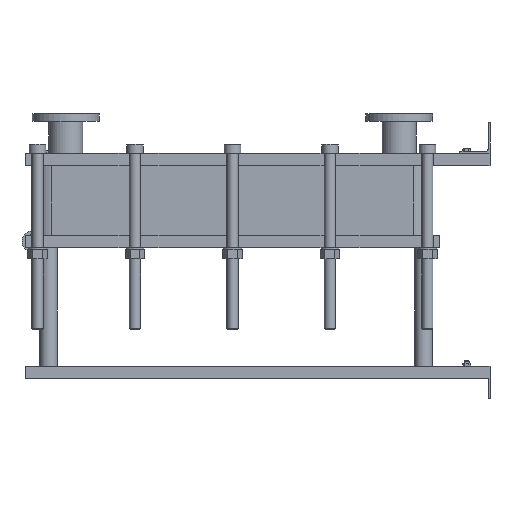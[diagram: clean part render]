
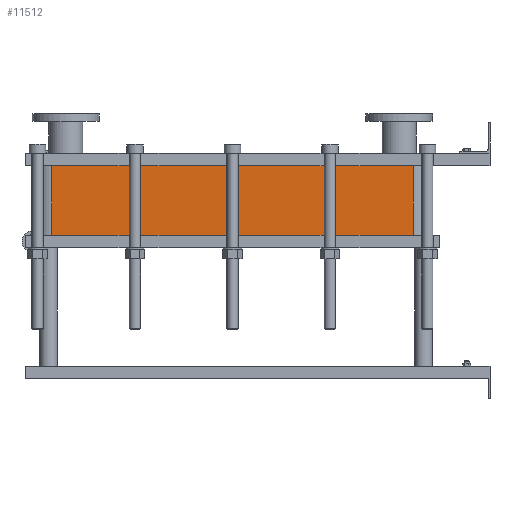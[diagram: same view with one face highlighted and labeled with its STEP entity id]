
A CAD part, left-side view. The second image highlights one B-rep face of the part: STEP entity #11512.
In plain terms, the highlighted planar face has unit normal (-1, 0, 0).
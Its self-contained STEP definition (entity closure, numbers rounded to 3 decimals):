
#1129=LINE('',#23232,#2102);
#1130=LINE('',#23236,#2103);
#1131=LINE('',#23238,#2104);
#1132=LINE('',#23239,#2105);
#2102=VECTOR('',#15887,10.);
#2103=VECTOR('',#15892,10.);
#2104=VECTOR('',#15893,10.);
#2105=VECTOR('',#15894,10.);
#3267=FACE_OUTER_BOUND('',#4093,.T.);
#4093=EDGE_LOOP('',(#10103,#10104,#10105,#10106));
#5642=VERTEX_POINT('',#23229);
#5643=VERTEX_POINT('',#23231);
#5644=VERTEX_POINT('',#23235);
#5645=VERTEX_POINT('',#23237);
#7159=EDGE_CURVE('',#5643,#5642,#1129,.T.);
#7161=EDGE_CURVE('',#5642,#5644,#1130,.T.);
#7162=EDGE_CURVE('',#5645,#5644,#1131,.T.);
#7163=EDGE_CURVE('',#5645,#5643,#1132,.T.);
#10103=ORIENTED_EDGE('',*,*,#7161,.T.);
#10104=ORIENTED_EDGE('',*,*,#7162,.F.);
#10105=ORIENTED_EDGE('',*,*,#7163,.T.);
#10106=ORIENTED_EDGE('',*,*,#7159,.T.);
#10857=PLANE('',#12751);
#11512=ADVANCED_FACE('',(#3267),#10857,.T.);
#12751=AXIS2_PLACEMENT_3D('',#23234,#15890,#15891);
#15887=DIRECTION('',(0.,0.,-1.));
#15890=DIRECTION('center_axis',(-1.,0.,0.));
#15891=DIRECTION('ref_axis',(0.,1.,0.));
#15892=DIRECTION('',(0.,-1.,0.));
#15893=DIRECTION('',(0.,0.,-1.));
#15894=DIRECTION('',(0.,1.,0.));
#23229=CARTESIAN_POINT('',(-200.,1414.,-224.25));
#23231=CARTESIAN_POINT('',(-200.,1414.,0.));
#23232=CARTESIAN_POINT('',(-200.,1414.,0.));
#23234=CARTESIAN_POINT('Origin',(-200.,248.,0.));
#23235=CARTESIAN_POINT('',(-200.,248.,-224.25));
#23236=CARTESIAN_POINT('',(-200.,539.5,-224.25));
#23237=CARTESIAN_POINT('',(-200.,248.,0.));
#23238=CARTESIAN_POINT('',(-200.,248.,0.));
#23239=CARTESIAN_POINT('',(-200.,248.,0.));
